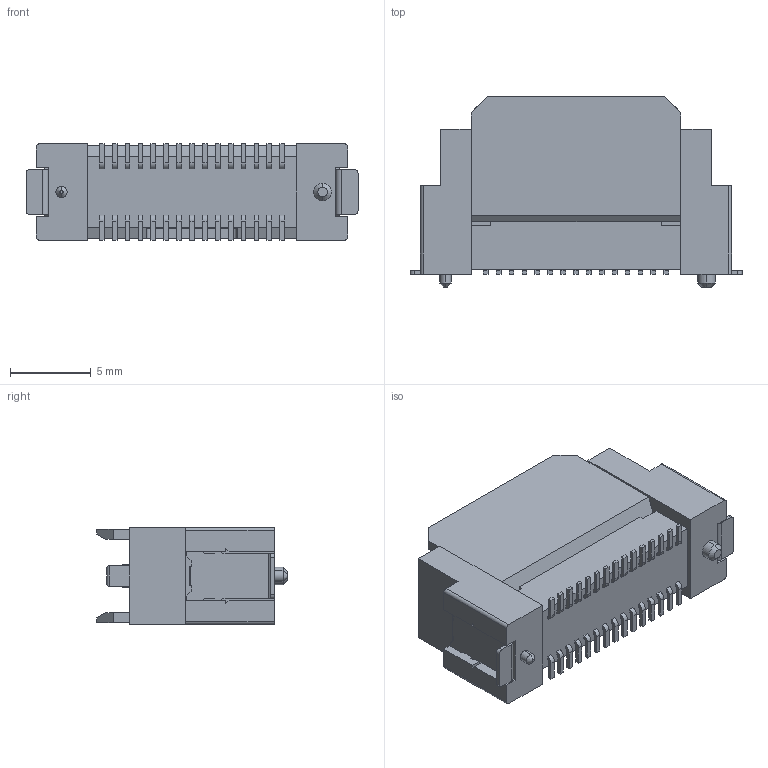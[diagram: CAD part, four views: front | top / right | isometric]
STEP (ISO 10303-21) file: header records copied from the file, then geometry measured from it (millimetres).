
FILE_DESCRIPTION (( 'STEP AP203' ), '1' );
FILE_NAME ('DFJ-PC030-S931110D(M)-FA.STEP', '2021-09-02T02:25:50', ( '' ), ( '' ), 'SwSTEP 2.0', 'SolidWorks 2018', '' );
FILE_SCHEMA (( 'CONFIG_CONTROL_DESIGN' ));
Length unit declared in the file: millimetre
Products named in the file (1): DFJ-PC030-S931110D(M)-FA
Bounding box: 20.6 x 11.8 x 6 mm (x, y, z)
Volume: 710.9 mm3; surface area: 1149.7 mm2
Topology: 1 solids, 1 shells, 563 faces, 1536 edges, 1002 vertices
Faces by surface type: plane 441, cylinder 104, cone 12, bspline 4, torus 2
Entity records: 17709 total; most frequent: CARTESIAN_POINT 3272, ORIENTED_EDGE 3064, DIRECTION 2876, EDGE_CURVE 1532, LINE 1248, VECTOR 1248, VERTEX_POINT 1002, AXIS2_PLACEMENT_3D 814
